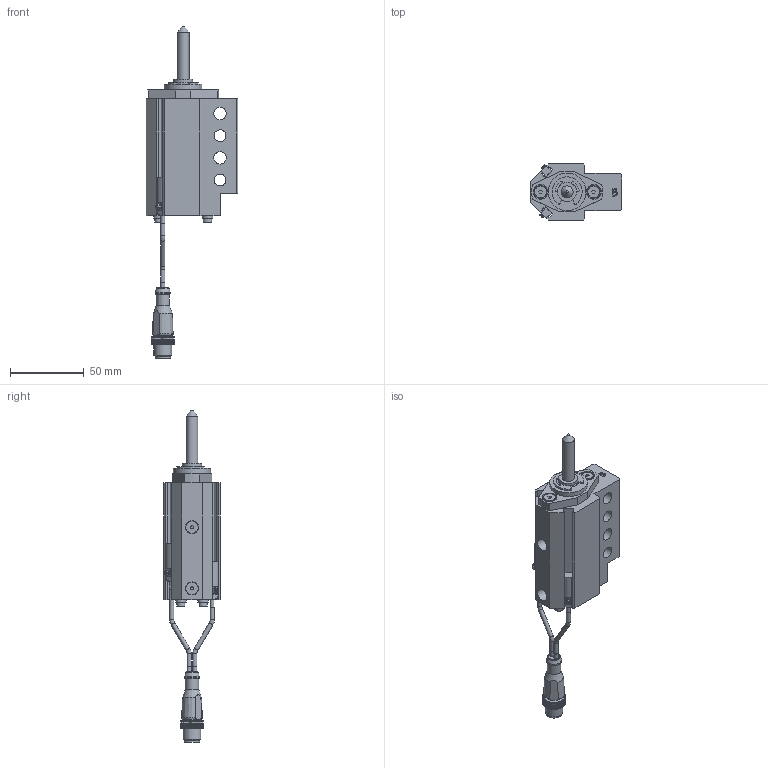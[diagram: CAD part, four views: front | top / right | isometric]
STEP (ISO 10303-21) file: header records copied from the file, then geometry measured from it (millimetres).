
FILE_DESCRIPTION(/* description */ ('NAAMS FLOATING MICRO PIN'),/* implementation_level */ '2;1');
FILE_NAME(/* name */ 'C:\Vault Workspace\CAD\Welker\Shot Pin\NMP\NMP080032BANL3.stp',/* time_stamp */ '2021-01-27T08:44:39-05:00',/* author */ ('WELKER'),/* organization */ (''),/* preprocessor_version */ 'ST-DEVELOPER v18.1',/* originating_system */ 'Autodesk Inventor 2020',/* authorisation */ '');
FILE_SCHEMA (('AUTOMOTIVE_DESIGN { 1 0 10303 214 3 1 1 }'));
Length unit declared in the file: millimetre
Products named in the file (16): NMPL01; NMP L3 SWITCH; L3 Connector; L3 Sensor 1; L3 Sensor 2; L3 Sensor cable; L3 Sensor cable 2; M3X0.5-8 SHCS; NL3; NMPE06; NMPE03; NMPE05-DIA-LENGTH; 985432A218; NMPE01B-PORT; RMPE02; M5X5 SHOULDER
Assembly tree (22 placements, depth 3):
  NMPL01
    NMP L3 SWITCH
      L3 Connector
      L3 Sensor 1
      L3 Sensor 2
      L3 Sensor cable
      L3 Sensor cable 2
    M3X0.5-8 SHCS  x4
    NL3  x4
    NMPE06
    NMPE03
    NMPE05-DIA-LENGTH
    985432A218
    NMPE01B-PORT
    RMPE02
    M5X5 SHOULDER  x2
Bounding box: 62 x 38.1 x 224.73 mm (x, y, z)
Volume: 111501 mm3; surface area: 45639 mm2
Topology: 21 solids, 21 shells, 758 faces, 2052 edges, 1372 vertices
Faces by surface type: plane 553, cylinder 144, cone 31, bspline 16, torus 11, sphere 3
Full cylindrical faces by diameter (mm): 2 x2, 2.459 x4, 2.9 x10, 3 x5, 3.242 x2, 3.4 x4, 4 x2, 5 x6, 5.5 x4, 7 x4, 8 x3, 8.3 x2, 8.376 x2, 9 x3, 10 x3, 10.4 x1, 10.5 x1, 12 x1, 13 x3, 16 x2, 19.05 x3, 21 x1, 22.5 x1, 23.672 x1, 24 x1, 25.4 x1, 25.5 x1, 26.5 x1, 28.677 x1, 29.21 x1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
Entity records: 23201 total; most frequent: CARTESIAN_POINT 4367, ORIENTED_EDGE 3802, DIRECTION 3727, EDGE_CURVE 1901, LINE 1393, VECTOR 1393, VERTEX_POINT 1277, AXIS2_PLACEMENT_3D 1167
